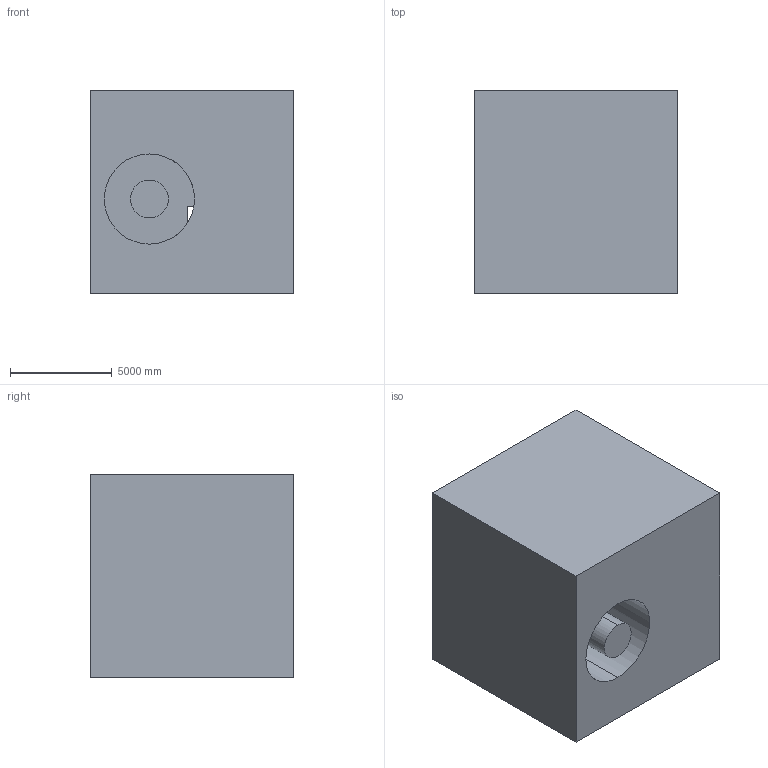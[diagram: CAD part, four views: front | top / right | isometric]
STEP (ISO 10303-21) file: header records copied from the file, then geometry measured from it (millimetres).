
FILE_DESCRIPTION (( 'STEP AP203' ), '1' );
FILE_NAME ('164.STEP', '2022-07-28T13:47:06', ( 'user' ), ( '' ), 'SwSTEP 2.0', 'SolidWorks 2021', '' );
FILE_SCHEMA (( 'CONFIG_CONTROL_DESIGN' ));
Length unit declared in the file: centimetre
Products named in the file (1): 164
Bounding box: 10000 x 10000 x 10000 mm (x, y, z)
Volume: 844938437508 mm3; surface area: 769731298.1 mm2
Topology: 1 solids, 1 shells, 15 faces, 39 edges, 26 vertices
Faces by surface type: plane 11, cylinder 4
Entity records: 544 total; most frequent: CARTESIAN_POINT 81, DIRECTION 81, ORIENTED_EDGE 78, EDGE_CURVE 39, LINE 29, VECTOR 29, VERTEX_POINT 26, AXIS2_PLACEMENT_3D 26
